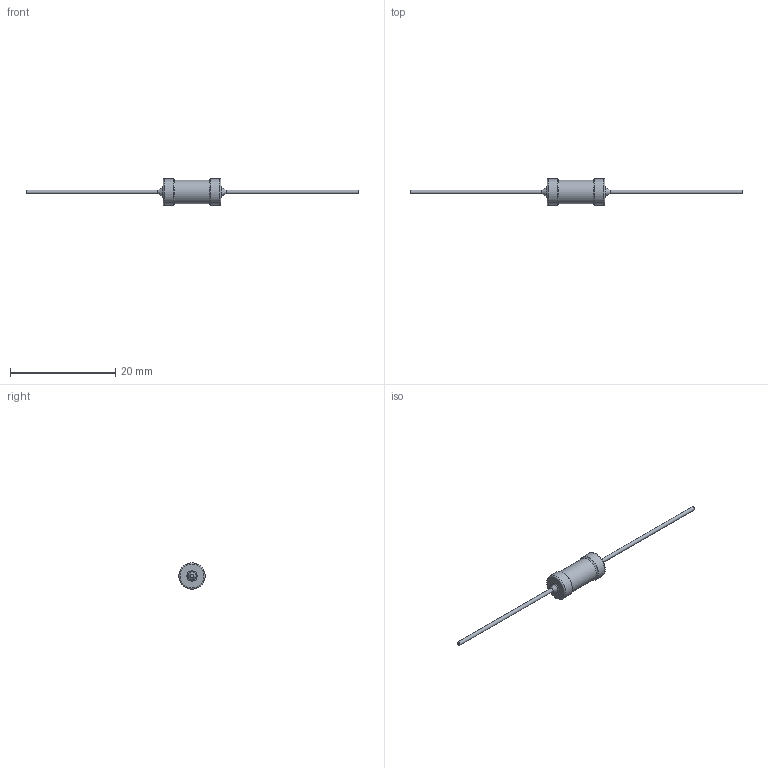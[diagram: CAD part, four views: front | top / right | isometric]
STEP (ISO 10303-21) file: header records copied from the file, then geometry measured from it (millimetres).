
FILE_DESCRIPTION(/* description */ (''),/* implementation_level */ '2;1');
FILE_NAME(/* name */ '\\WSSE03\home\klepschi\Desktop\Elektrowerkstatt - T23 - T21\Inventor - AutoCAD\Joshi Mohit\AC01-CS.stp',/* time_stamp */ '2017-03-29T14:16:15+02:00',/* author */ ('klepschi'),/* organization */ (''),/* preprocessor_version */ 'ST-DEVELOPER v15.6',/* originating_system */ 'Autodesk Inventor 2015',/* authorisation */ '');
FILE_SCHEMA (('AUTOMOTIVE_DESIGN { 1 0 10303 214 3 1 1 }'));
Length unit declared in the file: millimetre
Products named in the file (1): AC01-CS
Bounding box: 63 x 5 x 5 mm (x, y, z)
Volume: 211.5 mm3; surface area: 316.4 mm2
Topology: 1 solids, 1 shells, 17 faces, 29 edges, 16 vertices
Faces by surface type: torus 6, cylinder 5, plane 4, cone 2
Full cylindrical faces by diameter (mm): 0.7 x2, 4.5 x1, 5 x2
Entity records: 378 total; most frequent: DIRECTION 68, CARTESIAN_POINT 50, AXIS2_PLACEMENT_3D 34, EDGE_LOOP 32, ORIENTED_EDGE 32, FACE_OUTER_BOUND 17, ADVANCED_FACE 17, CIRCLE 16
